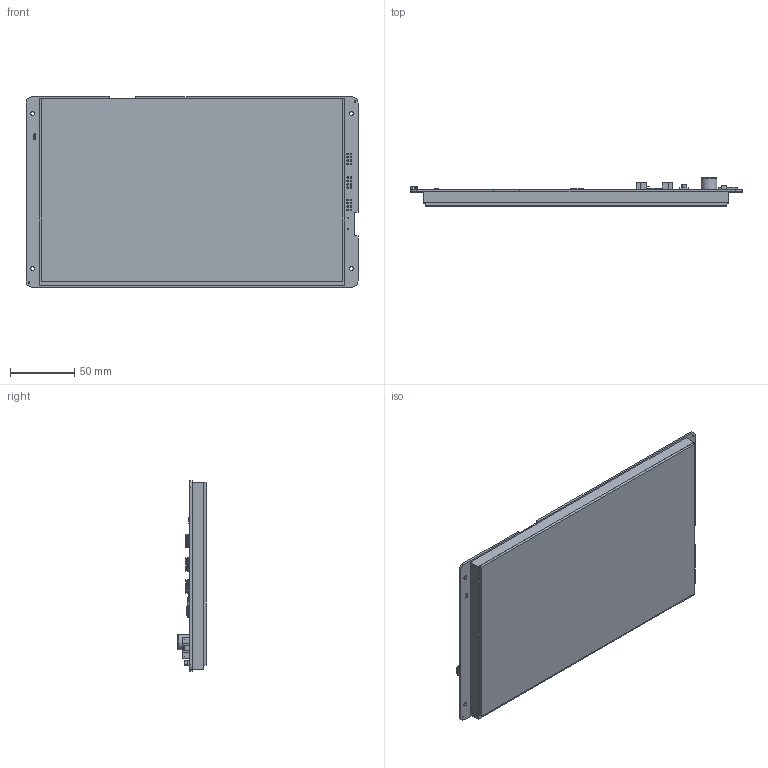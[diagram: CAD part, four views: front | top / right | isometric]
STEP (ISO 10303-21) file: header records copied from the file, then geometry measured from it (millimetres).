
FILE_DESCRIPTION(/* description */ (''),/* implementation_level */ '2;1');
FILE_NAME(/* name */ 'P10600-101P-L0101.stp',/* time_stamp */ '2026-01-22T16:55:49-03:00',/* author */ ('Reservaa'),/* organization */ (''),/* preprocessor_version */ 'ST-DEVELOPER v20',/* originating_system */ 'Autodesk Inventor 2024',/* authorisation */ '');
FILE_SCHEMA (('AUTOMOTIVE_DESIGN { 1 0 10303 214 3 1 1 }'));
Products named in the file (19): P10600-101T-L0101; Placa J70L_T01; Tela J70L_T01; Vidro da Tela J70L_T01; F1C100S; Body; ThermalPin; PinsArrayLR; PinsArrayTB; buzzer; botao_reset; AB2_USB_MICRO_SMD; User Library-CR2032_Holder; User Library-CR2032_Holder_Holder_Domyslna; User Library-CR2032_Holder_Pin_minus_Domyslna; User Library-CR2032_Holder_Pin_plus_Domyslna; sd; BM08B-SRSS; bateria
Assembly tree (21 placements, depth 3):
  P10600-101T-L0101
    Placa J70L_T01
    Tela J70L_T01
    Vidro da Tela J70L_T01
    F1C100S
      Body
      ThermalPin
      PinsArrayLR
      PinsArrayTB
    buzzer
    bateria  x2
    botao_reset
    AB2_USB_MICRO_SMD
    User Library-CR2032_Holder
      User Library-CR2032_Holder_Holder_Domyslna
      User Library-CR2032_Holder_Pin_minus_Domyslna
      User Library-CR2032_Holder_Pin_plus_Domyslna
    sd
    BM08B-SRSS  x3
Bounding box: 257.84 x 22 x 148.11 mm (x, y, z)
Volume: 436337.6 mm3; surface area: 226199.6 mm2
Topology: 109 solids, 109 shells, 2427 faces, 5876 edges, 3691 vertices
Faces by surface type: plane 2221, cylinder 185, cone 9, sphere 8, torus 4
Full cylindrical faces by diameter (mm): 0.4 x4, 0.5 x4, 0.8 x2, 1 x6, 1.2 x26, 1.25 x1, 1.7 x1, 1.8 x1, 2 x2, 2.5 x1, 3.2 x4, 12 x1
Entity records: 63049 total; most frequent: CARTESIAN_POINT 10588, ORIENTED_EDGE 10308, DIRECTION 9992, EDGE_CURVE 5154, LINE 4706, VECTOR 4706, VERTEX_POINT 3213, AXIS2_PLACEMENT_3D 2643
